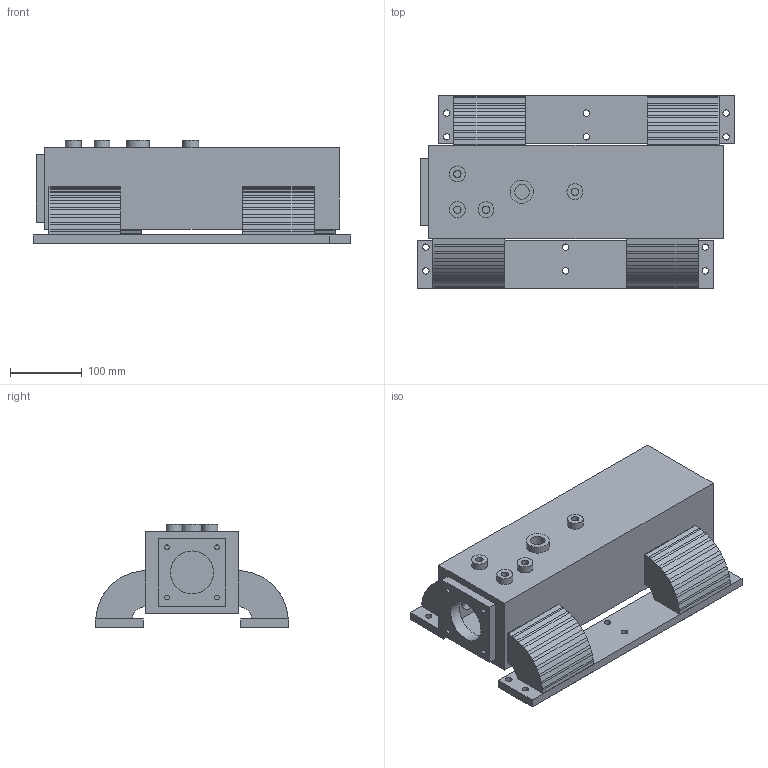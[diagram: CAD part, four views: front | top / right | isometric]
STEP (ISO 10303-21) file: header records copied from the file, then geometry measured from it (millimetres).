
FILE_DESCRIPTION(('Open CASCADE Model'),'2;1');
FILE_NAME('Open CASCADE Shape Model','2026-09-28T12:25:05',('Author'),( 'Open CASCADE'),'Open CASCADE STEP processor 8.0','build123d', 'Unknown');
FILE_SCHEMA(('AUTOMOTIVE_DESIGN { 1 0 10303 214 1 1 1 1 }'));
Length unit declared in the file: millimetre
Products named in the file (1): SOLID
Bounding box: 443 x 270 x 143.91 mm (x, y, z)
Volume: 2218654.8 mm3; surface area: 686306.9 mm2
Topology: 1 solids, 1 shells, 197 faces, 553 edges, 374 vertices
Faces by surface type: plane 122, cylinder 67, bspline 8
Full cylindrical faces by diameter (mm): 6.8 x4, 9 x12, 10.2 x4, 20.4 x1, 22.2 x4, 32.4 x1, 60 x1
Entity records: 20339 total; most frequent: CARTESIAN_POINT 9381, DIRECTION 1984, LINE 1287, VECTOR 1287, ORIENTED_EDGE 1106, PCURVE 1106, DEFINITIONAL_REPRESENTATION 1106, EDGE_CURVE 553
